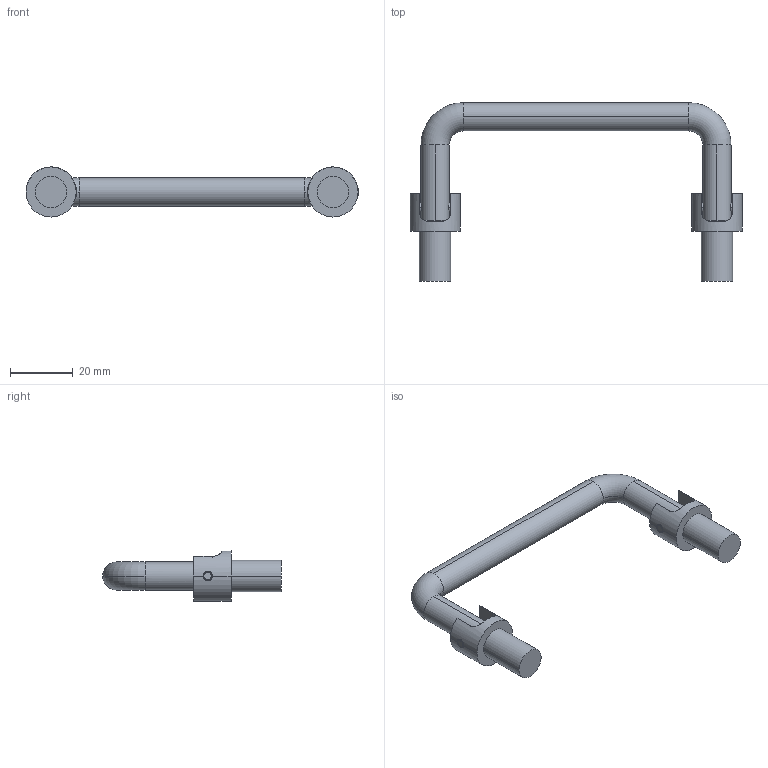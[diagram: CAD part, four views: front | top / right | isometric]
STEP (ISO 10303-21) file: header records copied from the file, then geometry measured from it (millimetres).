
FILE_DESCRIPTION (( 'STEP AP203' ), '1' );
FILE_NAME ('E04-504090.STEP', '2024-10-29T03:15:40', ( '' ), ( '' ), 'SwSTEP 2.0', 'SolidWorks 2021', '' );
FILE_SCHEMA (( 'CONFIG_CONTROL_DESIGN' ));
Length unit declared in the file: millimetre
Products named in the file (4): E04-504090-1; E04-504-1; PIN3-15; E04-504090
Assembly tree (5 placements, depth 2):
  E04-504090
    E04-504090-1
    E04-504-1  x2
    PIN3-15  x2
Bounding box: 106 x 57 x 16 mm (x, y, z)
Volume: 14617.8 mm3; surface area: 8223 mm2
Topology: 5 solids, 5 shells, 70 faces, 182 edges, 116 vertices
Faces by surface type: cylinder 38, plane 20, torus 12
Entity records: 2210 total; most frequent: CARTESIAN_POINT 663, DIRECTION 244, ORIENTED_EDGE 224, EDGE_CURVE 112, AXIS2_PLACEMENT_3D 105, VERTEX_POINT 72, CIRCLE 54, EDGE_LOOP 48
